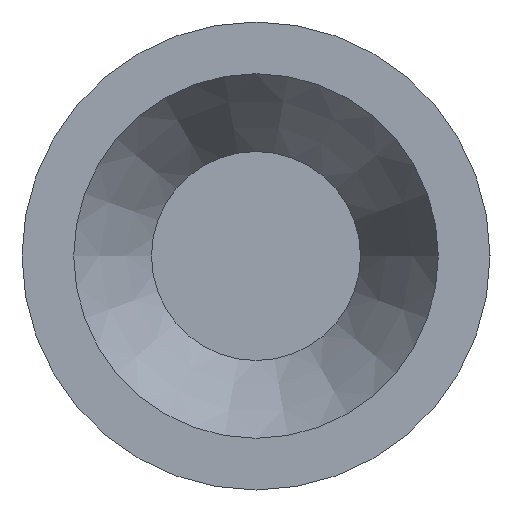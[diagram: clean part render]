
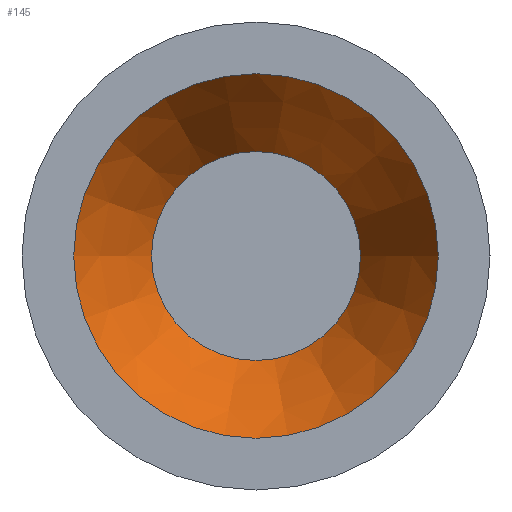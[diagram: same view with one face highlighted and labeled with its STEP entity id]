
A CAD part, left-side view. The second image highlights one B-rep face of the part: STEP entity #145.
In plain terms, the highlighted conical face has half-angle 30 degrees and reference radius 0.729 mm.
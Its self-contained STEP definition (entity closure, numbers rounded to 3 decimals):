
#19=FACE_BOUND($,#48,.T.);
#33=CONICAL_SURFACE($,#163,0.729,30.);
#35=FACE_OUTER_BOUND($,#47,.T.);
#47=EDGE_LOOP($,(#112));
#48=EDGE_LOOP($,(#113));
#72=CIRCLE($,#162,0.531);
#73=CIRCLE($,#164,0.927);
#85=VERTEX_POINT($,#246);
#86=VERTEX_POINT($,#249);
#98=EDGE_CURVE($,#85,#85,#72,.T.);
#99=EDGE_CURVE($,#86,#86,#73,.T.);
#112=ORIENTED_EDGE($,*,*,#99,.F.);
#113=ORIENTED_EDGE($,*,*,#98,.F.);
#145=ADVANCED_FACE($,(#35,#19),#33,.F.);
#162=AXIS2_PLACEMENT_3D($,#247,#192,#193);
#163=AXIS2_PLACEMENT_3D($,#248,#194,#195);
#164=AXIS2_PLACEMENT_3D($,#250,#196,#197);
#192=DIRECTION('center_axis',(-1.,0.,0.));
#193=DIRECTION('ref_axis',(0.,1.,0.));
#194=DIRECTION('center_axis',(-1.,0.,0.));
#195=DIRECTION('ref_axis',(0.,1.,0.));
#196=DIRECTION('center_axis',(1.,0.,0.));
#197=DIRECTION('ref_axis',(0.,1.,0.));
#246=CARTESIAN_POINT('',(0.686,0.531,0.));
#247=CARTESIAN_POINT('Origin',(0.686,0.,0.));
#248=CARTESIAN_POINT('Origin',(0.343,0.,0.));
#249=CARTESIAN_POINT('',(0.,0.927,0.));
#250=CARTESIAN_POINT('Origin',(0.,0.,
0.));
